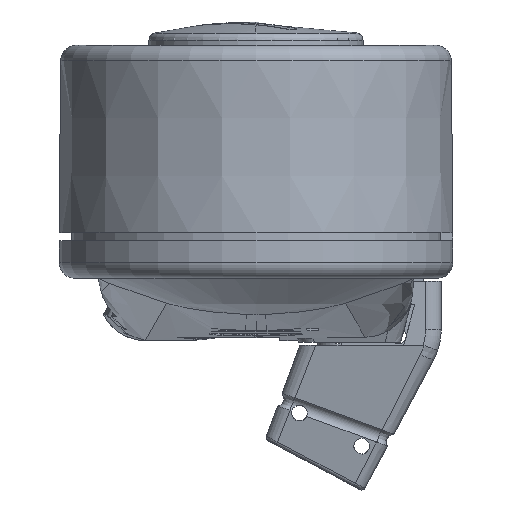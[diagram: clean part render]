
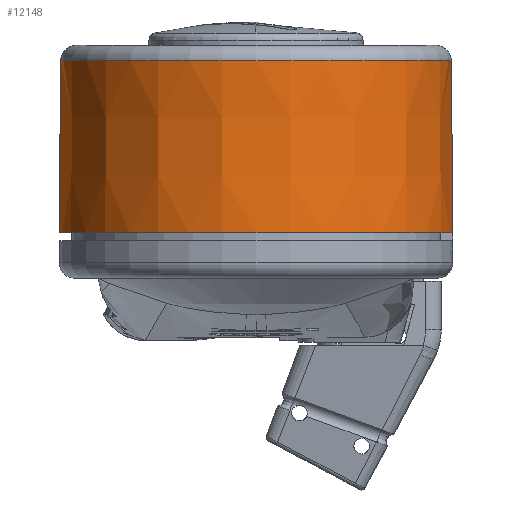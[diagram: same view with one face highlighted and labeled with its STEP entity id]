
A CAD part, left-side view. The second image highlights one B-rep face of the part: STEP entity #12148.
In plain terms, the highlighted conical face has half-angle 0.5 degrees and reference radius 12.548 mm.
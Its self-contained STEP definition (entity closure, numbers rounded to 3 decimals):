
#315=CARTESIAN_POINT('',(-52.5,0.,-12.));
#316=DIRECTION('',(0.,0.,1.));
#317=DIRECTION('',(0.,1.,0.));
#318=AXIS2_PLACEMENT_3D('',#315,#316,#317);
#356=DIRECTION('',(0.,-0.009,1.));
#357=VECTOR('',#356,11.009);
#358=CARTESIAN_POINT('',(-52.5,12.596,-12.));
#359=LINE('',#358,#357);
#360=DIRECTION('',(0.,-0.009,-1.));
#361=VECTOR('',#360,11.009);
#362=CARTESIAN_POINT('',(-52.5,-12.5,-0.991));
#363=LINE('',#362,#361);
#409=CARTESIAN_POINT('',(-52.5,0.,-0.991));
#410=DIRECTION('',(0.,0.,-1.));
#411=DIRECTION('',(0.,-1.,0.));
#412=AXIS2_PLACEMENT_3D('',#409,#410,#411);
#9858=CARTESIAN_POINT('',(-52.5,12.596,-12.));
#9859=VERTEX_POINT('',#9858);
#9860=CARTESIAN_POINT('',(-52.5,-12.596,-12.));
#9861=VERTEX_POINT('',#9860);
#9870=CARTESIAN_POINT('',(-52.5,-12.5,-0.991));
#9871=VERTEX_POINT('',#9870);
#9874=CARTESIAN_POINT('',(-52.5,12.5,-0.991));
#9875=VERTEX_POINT('',#9874);
#12135=CARTESIAN_POINT('',(-52.5,0.,-6.496));
#12136=DIRECTION('',(0.,0.,-1.));
#12137=DIRECTION('',(0.,1.,0.));
#12138=AXIS2_PLACEMENT_3D('',#12135,#12136,#12137);
#12139=CONICAL_SURFACE('',#12138,12.548,0.5);
#12141=ORIENTED_EDGE('',*,*,#12140,.T.);
#12143=ORIENTED_EDGE('',*,*,#12142,.F.);
#12144=ORIENTED_EDGE('',*,*,#12087,.T.);
#12145=ORIENTED_EDGE('',*,*,#12060,.F.);
#12146=EDGE_LOOP('',(#12141,#12143,#12144,#12145));
#12147=FACE_OUTER_BOUND('',#12146,.F.);
#12148=ADVANCED_FACE('',(#12147),#12139,.T.);
#319=CIRCLE('',#318,12.596);
#413=CIRCLE('',#412,12.5);
#12060=EDGE_CURVE('',#9859,#9861,#319,.T.);
#12087=EDGE_CURVE('',#9871,#9861,#363,.T.);
#12140=EDGE_CURVE('',#9859,#9875,#359,.T.);
#12142=EDGE_CURVE('',#9871,#9875,#413,.T.);
